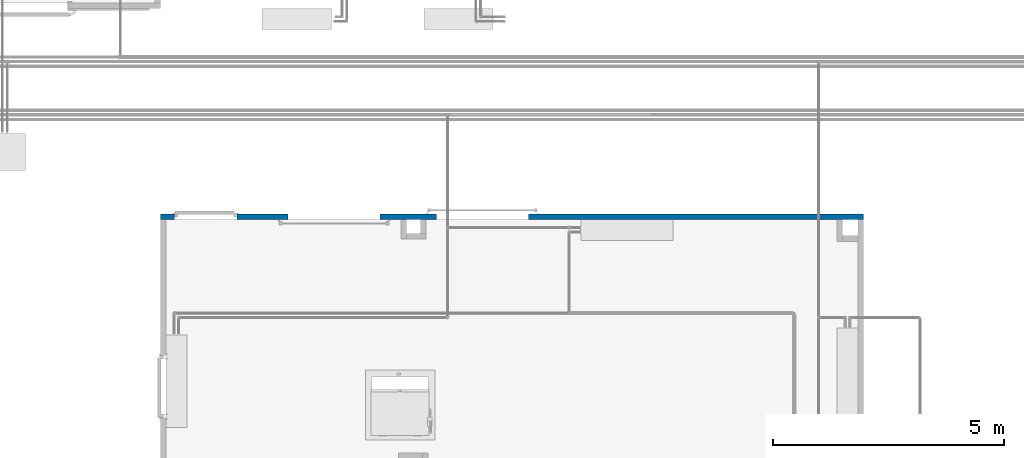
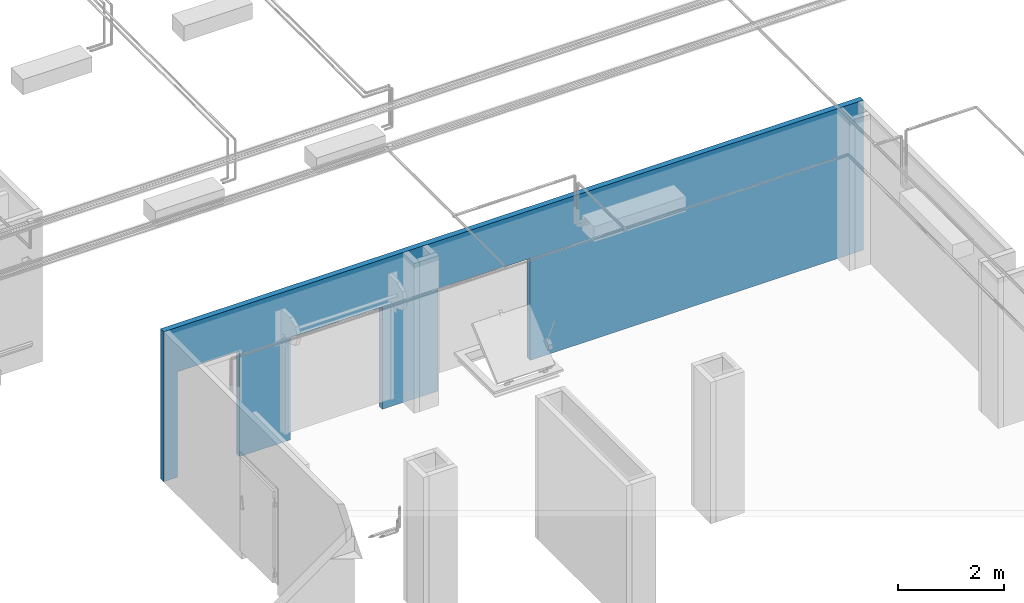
# One storey, part 23 of 652: 1 wall, 6 openings.
"""IFC2X3 building model written with IfcOpenShell, lengths in millimetres."""

from ifc_helpers import new_model, entity, si_unit, converted_unit, direction, frame, frame_2d, origin, origin_2d_with_axis, place, context, subcontext, project, spatial, rectangle, extrude, material, layer, layer_set, layer_usage, type_object, element, save


model = new_model("IFC2X3")

# Units and contexts
model_context = context("Model", 3, precision=0.01, world=frame((0.0, 0.0, 308426.39999999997)), true_north=direction((6.123233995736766e-17, 1.0)))
plan_context = context("Plan", 3, precision=0.01, world=frame((0.0, 0.0, 308426.39999999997)), true_north=direction((6.123233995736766e-17, 1.0)))
body_context = subcontext(model_context, "Body", "Model", "MODEL_VIEW")
ifc_project = project(units=[si_unit("LENGTHUNIT", "METRE", prefix="MILLI"), si_unit("AREAUNIT", "SQUARE_METRE"), si_unit("VOLUMEUNIT", "CUBIC_METRE"), converted_unit("PLANEANGLEUNIT", "DEGREE", entity("IfcPlaneAngleMeasure", 0.017453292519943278), si_unit("PLANEANGLEUNIT", "RADIAN"), dimensions=[0, 0, 0, 0, 0, 0, 0])], contexts=[model_context, plan_context])

# Site, building, storey
site_placement = place(None, origin())
site = spatial("IfcSite", under=ifc_project, at=site_placement, Name="Default", CompositionType="ELEMENT")
building_placement = place(site_placement, origin())
building = spatial("IfcBuilding", under=site, at=building_placement, CompositionType="ELEMENT")
storey_placement = place(building_placement, frame((0.0, 0.0, 1730.6999999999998)))
storey = spatial("IfcBuildingStorey", under=building, at=storey_placement, Name="EG_Produktion_FFB", CompositionType="ELEMENT", Elevation=1730.6999999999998)

# Wall, openings
ifc_material = material(Name="GPG_Paneelwand")
ifc_layer = layer(ifc_material, 120.0)
ifc_layer_set = layer_set([ifc_layer], Name="Basiswand:Kühlzellen Paneelwand 120")
ifc_layer_usage = layer_usage(ifc_layer_set, "AXIS2", "POSITIVE", -60.0)
wall_type = type_object("IfcWallType", Name="Basiswand:Kühlzellen Paneelwand 120", PredefinedType="STANDARD", material=ifc_layer_set)
wall_placement = place(storey_placement, frame((66620.0, 57640.0, -250.0), z_axis=(0.0, 0.0, 1.0), x_axis=(-1.0, 0.0, 0.0)))
wall = element("IfcWallStandardCase", 1, at=wall_placement, inside=storey, type_object=wall_type, material=ifc_layer_usage, Name="Basiswand:Kühlzellen Paneelwand 120", ObjectType="Basiswand:Kühlzellen Paneelwand 120", context=body_context, shape_type="SweptSolid", body=[
    extrude(rectangle(XDim=15219.999999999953, YDim=120.00000000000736, at=frame_2d((7609.999999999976, -5.648814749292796e-13), x_axis=(-1.0, 0.0))), origin(), (0.0, 0.0, 1.0), 3449.9999999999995),
])
opening_1_placement = place(wall_placement, frame((66620.0, 57640.0, 250.0), z_axis=(0.0, 0.0, 1.0), x_axis=(-1.0, 0.0, 0.0)))
element("IfcOpeningElement", 2, at=opening_1_placement, cuts=wall, Name="Basiswand:Kühlzellen Paneelwand 120", ObjectType="Opening", context=body_context, shape_type="SweptSolid", body=[
    extrude(rectangle(XDim=2099.9999999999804, YDim=1999.999999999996, at=frame_2d((-1.1368683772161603e-13, 0.0), x_axis=(1.0, 0.0))), frame((55155.00000000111, 59224.0, 1050.0), z_axis=(0.0, -1.0, 0.0), x_axis=(0.0, 0.0, -1.0)), (0.0, 0.0, 1.0), 3048.0),
])
opening_2_placement = place(wall_placement, frame((66620.0, 57640.0, 250.0), z_axis=(0.0, 0.0, 1.0), x_axis=(-1.0, 0.0, 0.0)))
element("IfcOpeningElement", 3, at=opening_2_placement, cuts=wall, Name="Basiswand:Kühlzellen Paneelwand 120", ObjectType="Opening", context=body_context, shape_type="SweptSolid", body=[
    extrude(rectangle(XDim=250.00000000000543, YDim=1999.999999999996, at=origin_2d_with_axis()), frame((55155.00000000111, 59104.0, -125.0), z_axis=(0.0, -1.0, 0.0), x_axis=(0.0, 0.0, -1.0)), (0.0, 0.0, 1.0), 3048.0),
])
opening_3_placement = place(wall_placement, frame((66620.0, 57640.0, 250.0), z_axis=(0.0, 0.0, 1.0), x_axis=(-1.0, 0.0, 0.0)))
element("IfcOpeningElement", 4, at=opening_3_placement, cuts=wall, Name="Basiswand:Kühlzellen Paneelwand 120", ObjectType="Opening", context=body_context, shape_type="SweptSolid", body=[
    extrude(rectangle(XDim=2099.99999999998, YDim=1999.999999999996, at=frame_2d((0.0, 0.0), x_axis=(0.0, 1.0))), frame((58370.0, 59104.0, 1050.0), z_axis=(0.0, -1.0, 0.0), x_axis=(-1.0, 0.0, 0.0)), (0.0, 0.0, 1.0), 3048.0),
])
opening_4_placement = place(wall_placement, frame((66620.0, 57640.0, 250.0), z_axis=(0.0, 0.0, 1.0), x_axis=(-1.0, 0.0, 0.0)))
element("IfcOpeningElement", 5, at=opening_4_placement, cuts=wall, Name="Basiswand:Kühlzellen Paneelwand 120", ObjectType="Opening", context=body_context, shape_type="SweptSolid", body=[
    extrude(rectangle(XDim=250.00000000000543, YDim=1999.999999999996, at=frame_2d((0.0, 0.0), x_axis=(0.0, 1.0))), frame((58370.0, 59224.0, -125.0), z_axis=(0.0, -1.0, 0.0), x_axis=(-1.0, 0.0, 0.0)), (0.0, 0.0, 1.0), 3048.0),
])
opening_5_placement = place(wall_placement, frame((66620.0, 57640.0, 250.0), z_axis=(0.0, 0.0, 1.0), x_axis=(-1.0, 0.0, 0.0)))
element("IfcOpeningElement", 6, at=opening_5_placement, cuts=wall, Name="Basiswand:Kühlzellen Paneelwand 120", ObjectType="Opening", context=body_context, shape_type="SweptSolid", body=[
    extrude(rectangle(XDim=2175.0, YDim=1350.000000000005, at=frame_2d((0.0, -3.410605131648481e-13), x_axis=(0.0, 1.0))), frame((52375.0, 59104.0, 1087.4999999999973), z_axis=(0.0, -1.0, 0.0), x_axis=(1.0, 0.0, 0.0)), (0.0, 0.0, 1.0), 3048.0),
])
opening_6_placement = place(wall_placement, frame((66620.0, 57640.0, 250.0), z_axis=(0.0, 0.0, 1.0), x_axis=(-1.0, 0.0, 0.0)))
element("IfcOpeningElement", 7, at=opening_6_placement, cuts=wall, Name="Basiswand:Kühlzellen Paneelwand 120", ObjectType="Opening", context=body_context, shape_type="SweptSolid", body=[
    extrude(rectangle(XDim=249.99999999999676, YDim=1350.000000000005, at=frame_2d((0.0, 0.0), x_axis=(0.0, 1.0))), frame((52375.0, 59224.0, -125.0), z_axis=(0.0, -1.0, 0.0), x_axis=(1.0, 0.0, 0.0)), (0.0, 0.0, 1.0), 3048.0),
])

save(model, "model.ifc")
